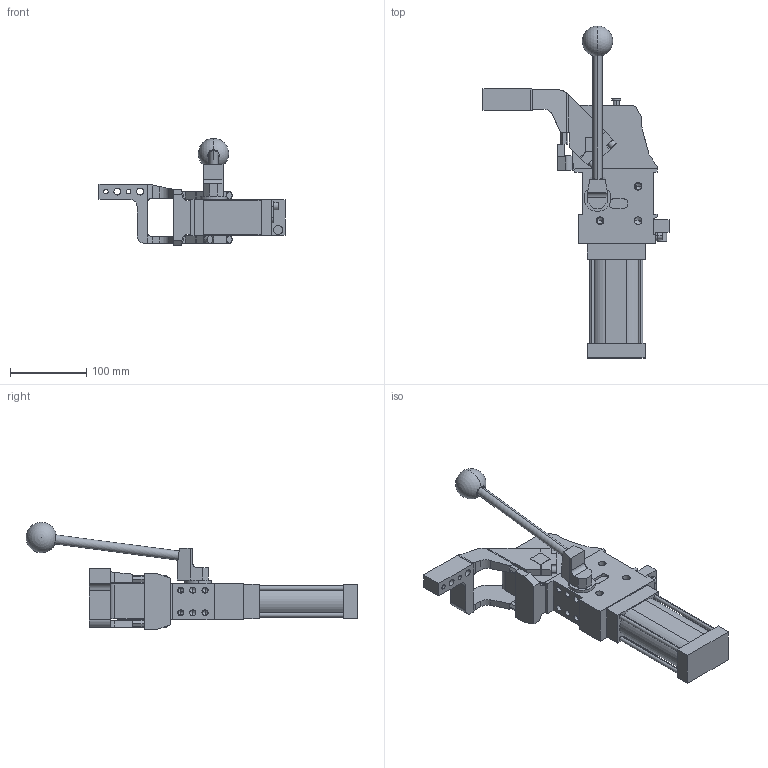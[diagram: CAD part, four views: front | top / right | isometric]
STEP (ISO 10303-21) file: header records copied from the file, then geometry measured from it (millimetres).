
FILE_DESCRIPTION (( 'STEP AP214' ), '1' );
FILE_NAME ('cplm50latv3si1g_135.STEP', '2023-01-26T14:05:15', ( '' ), ( '' ), 'SwSTEP 2.0', 'SolidWorks 2022', '' );
FILE_SCHEMA (( 'AUTOMOTIVE_DESIGN' ));
Length unit declared in the file: millimetre
Products named in the file (5): blocchetto_VEP_0; comando_manuale_cplm_50; cplm50latv3si1g_135; meccanica_cplm_50_tassello_esterno; leva_v3s_cpl50t
Assembly tree (4 placements, depth 2):
  cplm50latv3si1g_135
    meccanica_cplm_50_tassello_esterno
    blocchetto_VEP_0
    leva_v3s_cpl50t
    comando_manuale_cplm_50
Bounding box: 244.5 x 436.23 x 141 mm (x, y, z)
Volume: 1515111.3 mm3; surface area: 191986.9 mm2
Topology: 4 solids, 4 shells, 466 faces, 1207 edges, 757 vertices
Faces by surface type: plane 245, cylinder 169, cone 50, sphere 2
Entity records: 15482 total; most frequent: CARTESIAN_POINT 2483, DIRECTION 2443, ORIENTED_EDGE 2312, EDGE_CURVE 1156, AXIS2_PLACEMENT_3D 828, LINE 787, VECTOR 787, VERTEX_POINT 754
